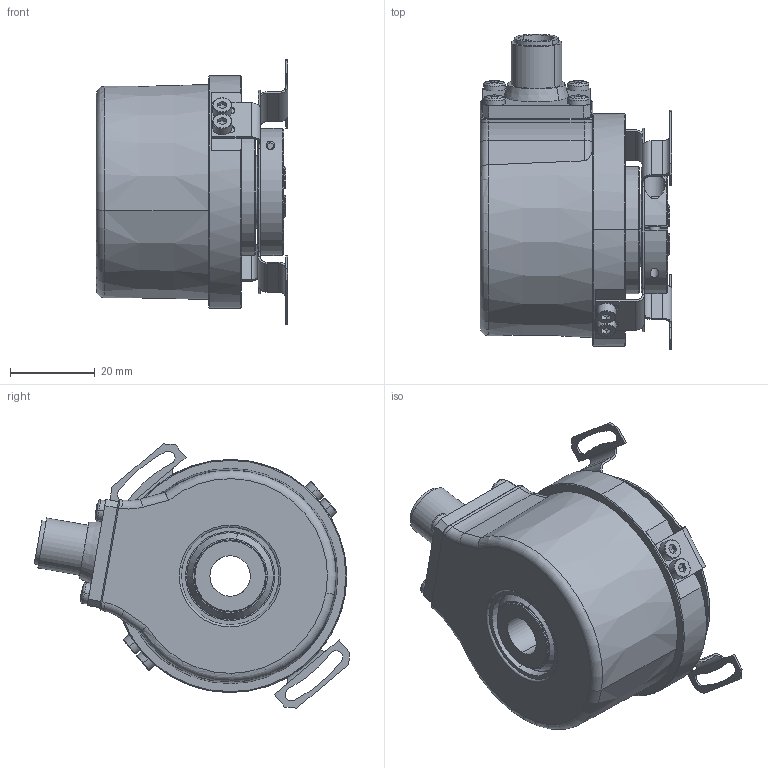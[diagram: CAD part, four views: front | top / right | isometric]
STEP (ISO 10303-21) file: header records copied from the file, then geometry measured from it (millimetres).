
FILE_DESCRIPTION (( 'STEP AP203' ), '1' );
FILE_NAME ('8.5020.D4X2.XXXX.STEP', '2017-03-28T05:19:04', ( '' ), ( '' ), 'SwSTEP 2.0', 'SolidWorks 2017', '' );
FILE_SCHEMA (( 'CONFIG_CONTROL_DESIGN' ));
Length unit declared in the file: millimetre
Products named in the file (1): 8.5020.D4X2.XXXX
Bounding box: 45.2 x 74.44 x 62.38 mm (x, y, z)
Volume: 47074.8 mm3; surface area: 40722.4 mm2
Topology: 20 solids, 21 shells, 903 faces, 2220 edges, 1360 vertices
Faces by surface type: plane 309, cylinder 305, cone 150, torus 65, sphere 64, bspline 10
Entity records: 27588 total; most frequent: CARTESIAN_POINT 6592, DIRECTION 4617, ORIENTED_EDGE 4148, EDGE_CURVE 2074, AXIS2_PLACEMENT_3D 1855, VERTEX_POINT 1290, EDGE_LOOP 1062, CIRCLE 961
